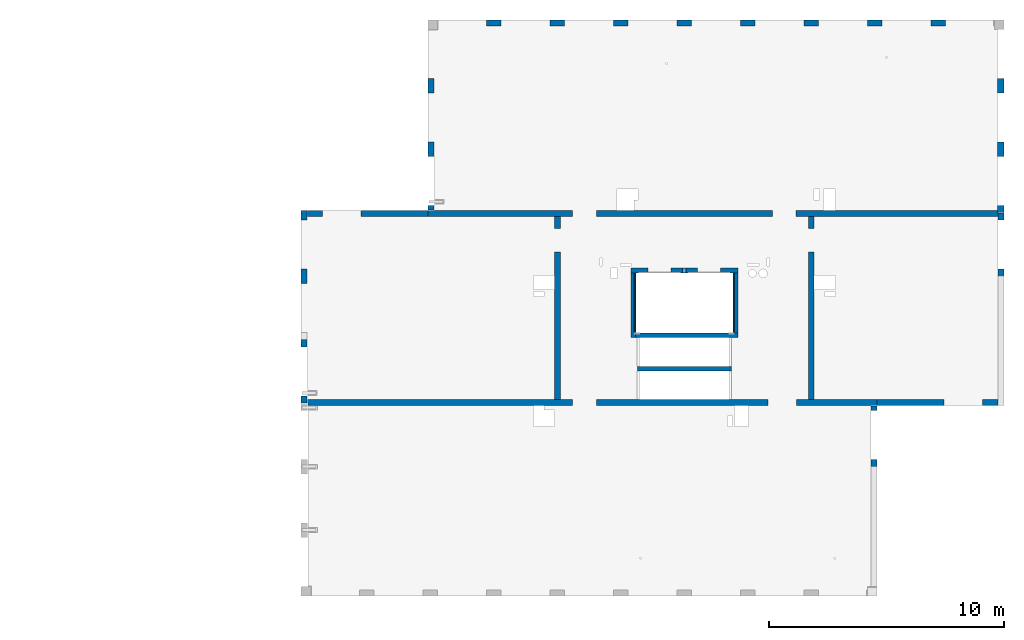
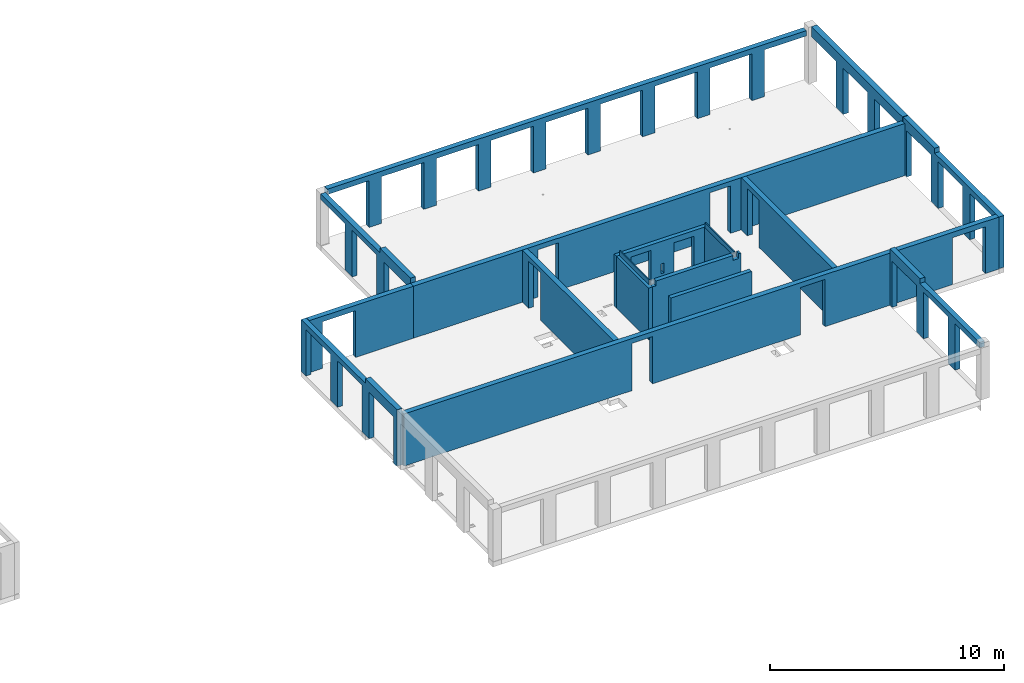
# One storey, part 4 of 8: 19 walls, 42 openings.
"""IFC2X3 building model written with IfcOpenShell, lengths in millimetres."""

from ifc_helpers import new_model, entity, si_unit, converted_unit, derived_unit, direction, frame, frame_2d, origin, place, context, subcontext, project, spatial, rectangle, extrude, material, layer, layer_set, layer_usage, type_object, element, save


model = new_model("IFC2X3")

# Units and contexts
model_context = context("Model", 3, precision=0.01, world=origin(), true_north=direction((6.12303176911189e-17, 1.0)))
body_context = subcontext(model_context, "Body", "Model", "MODEL_VIEW")
ifc_project = project(units=[si_unit("LENGTHUNIT", "METRE", prefix="MILLI"), si_unit("AREAUNIT", "SQUARE_METRE"), si_unit("VOLUMEUNIT", "CUBIC_METRE"), converted_unit("PLANEANGLEUNIT", "DEGREE", entity("IfcRatioMeasure", 0.0174532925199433), si_unit("PLANEANGLEUNIT", "RADIAN"), dimensions=[0, 0, 0, 0, 0, 0, 0]), si_unit("MASSUNIT", "GRAM", prefix="KILO"), derived_unit("MASSDENSITYUNIT", [(si_unit("MASSUNIT", "GRAM", prefix="KILO"), 1), (si_unit("LENGTHUNIT", "METRE"), -3)]), si_unit("TIMEUNIT", "SECOND"), si_unit("FREQUENCYUNIT", "HERTZ"), si_unit("THERMODYNAMICTEMPERATUREUNIT", "DEGREE_CELSIUS"), derived_unit("THERMALTRANSMITTANCEUNIT", [(si_unit("MASSUNIT", "GRAM", prefix="KILO"), 1), (si_unit("THERMODYNAMICTEMPERATUREUNIT", "KELVIN"), -1), (si_unit("TIMEUNIT", "SECOND"), -3)]), derived_unit("VOLUMETRICFLOWRATEUNIT", [(si_unit("LENGTHUNIT", "METRE"), 3), (si_unit("TIMEUNIT", "SECOND"), -1)]), si_unit("ELECTRICCURRENTUNIT", "AMPERE"), si_unit("ELECTRICVOLTAGEUNIT", "VOLT"), si_unit("POWERUNIT", "WATT"), si_unit("FORCEUNIT", "NEWTON", prefix="KILO"), si_unit("ILLUMINANCEUNIT", "LUX"), si_unit("LUMINOUSFLUXUNIT", "LUMEN"), si_unit("LUMINOUSINTENSITYUNIT", "CANDELA"), derived_unit("USERDEFINED", [(si_unit("MASSUNIT", "GRAM", prefix="KILO"), -1), (si_unit("LENGTHUNIT", "METRE"), -2), (si_unit("TIMEUNIT", "SECOND"), 3), (si_unit("LUMINOUSFLUXUNIT", "LUMEN"), 1)]), derived_unit("LINEARVELOCITYUNIT", [(si_unit("LENGTHUNIT", "METRE"), 1), (si_unit("TIMEUNIT", "SECOND"), -1)]), si_unit("PRESSUREUNIT", "PASCAL"), derived_unit("USERDEFINED", [(si_unit("LENGTHUNIT", "METRE"), -2), (si_unit("MASSUNIT", "GRAM", prefix="KILO"), 1), (si_unit("TIMEUNIT", "SECOND"), -2)])], contexts=[model_context])

# Site, building, storey
site_placement = place(None, origin())
site = spatial("IfcSite", under=ifc_project, at=site_placement, Name="Default", CompositionType="ELEMENT")
building_placement = place(site_placement, origin())
building = spatial("IfcBuilding", under=site, at=building_placement, Name="niet gebruiken", CompositionType="ELEMENT")
storey_placement = place(building_placement, frame((0.0, 0.0, 45270.0)))
storey = spatial("IfcBuildingStorey", under=building, at=storey_placement, Name="15 vijftiende verdieping", CompositionType="ELEMENT", Elevation=45270.0)

# Wall, openings
ifc_material_1 = material(Name="NLRS_f2_beton ihwg")
ifc_layer_1 = layer(ifc_material_1, 250.0)
ifc_layer_set_1 = layer_set([ifc_layer_1], Name="Basic Wall:NLRS_22.21_WA_beton ihwg d=250_gen")
ifc_layer_usage_1 = layer_usage(ifc_layer_set_1, "AXIS2", "NEGATIVE", 125.0)
wall_type_1 = type_object("IfcWallType", Name="Basic Wall:NLRS_22.21_WA_beton ihwg d=250_gen", PredefinedType="STANDARD", material=ifc_layer_set_1)
wall_1_placement = place(storey_placement, frame((75770.0, 36981.0, -90.0)))
wall_1 = element("IfcWallStandardCase", 1, at=wall_1_placement, inside=storey, type_object=wall_type_1, material=ifc_layer_usage_1, Name="Basic Wall:NLRS_22.21_WA_beton ihwg d=250_gen", ObjectType="Basic Wall:NLRS_22.21_WA_beton ihwg d=250_gen", context=body_context, shape_type="SweptSolid", body=[
    extrude(rectangle(XDim=24230.0000000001, YDim=250.000000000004, at=frame_2d((12115.0, 0.0), x_axis=(-1.0, 0.0))), origin(), (0.0, 0.0, 1.0), 2719.99999999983),
])
opening_1_placement = place(wall_1_placement, origin())
element("IfcOpeningElement", 2, at=opening_1_placement, cuts=wall_1, Name="Basic Wall:NLRS_22.21_WA_beton ihwg d=250_gen", ObjectType="Opening", context=body_context, shape_type="SweptSolid", body=[
    extrude(rectangle(XDim=2470.0, YDim=1225.0, at=frame_2d((-8.69704308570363e-12, 4.43378667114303e-12), x_axis=(0.0, 1.0))), frame((20192.5000000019, -1399.0, 1235.0), z_axis=(0.0, 1.0, 0.0), x_axis=(-1.0, 0.0, 0.0)), (0.0, 0.0, 1.0), 3048.0),
])
opening_2_placement = place(wall_1_placement, origin())
element("IfcOpeningElement", 3, at=opening_2_placement, cuts=wall_1, Name="Basic Wall:NLRS_22.21_WA_beton ihwg d=250_gen", ObjectType="Opening", context=body_context, shape_type="SweptSolid", body=[
    extrude(rectangle(XDim=2470.0, YDim=1006.0, at=frame_2d((8.66862137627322e-12, -4.43378667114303e-12), x_axis=(0.0, 1.0))), frame((11782.0, -1399.0, 1235.0), z_axis=(0.0, 1.0, 0.0), x_axis=(-1.0, 0.0, 0.0)), (0.0, 0.0, 1.0), 3048.0),
])
opening_3_placement = place(wall_1_placement, origin())
element("IfcOpeningElement", 4, at=opening_3_placement, cuts=wall_1, Name="Basic Wall:NLRS_22.21_WA_beton ihwg d=250_gen", ObjectType="Recess", context=body_context, shape_type="SweptSolid", body=[
    extrude(rectangle(XDim=55000.0, YDim=19.9999999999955, at=frame_2d((0.0, 4.33164615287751e-12), x_axis=(1.0, 0.0))), frame((10.0, -140.0, -5170.0), z_axis=(0.0, 1.0, 0.0), x_axis=(0.0, 0.0, -1.0)), (0.0, 0.0, 1.0), 124.999999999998),
])

# Wall, opening
ifc_layer_usage_2 = layer_usage(ifc_layer_set_1, "AXIS2", "NEGATIVE", 125.0)
wall_2_placement = place(storey_placement, frame((75770.0, 45031.0, -90.0)))
wall_2 = element("IfcWallStandardCase", 5, at=wall_2_placement, inside=storey, type_object=wall_type_1, material=ifc_layer_usage_2, Name="Basic Wall:NLRS_22.21_WA_beton ihwg d=250_gen", ObjectType="Basic Wall:NLRS_22.21_WA_beton ihwg d=250_gen", context=body_context, shape_type="SweptSolid", body=[
    extrude(rectangle(XDim=5130.0, YDim=249.999999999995, at=frame_2d((2565.0, 0.0), x_axis=(-1.0, 0.0))), origin(), (0.0, 0.0, 1.0), 2719.99999999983),
])
opening_4_placement = place(wall_2_placement, origin())
element("IfcOpeningElement", 6, at=opening_4_placement, cuts=wall_2, Name="Basic Wall:NLRS_22.21_WA_beton ihwg d=250_gen", ObjectType="Opening", context=body_context, shape_type="SweptSolid", body=[
    extrude(rectangle(XDim=2440.0, YDim=1640.0, at=frame_2d((0.0, 4.37694325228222e-12), x_axis=(1.0, 0.0))), frame((1460.0, -1649.0, 1220.0), z_axis=(0.0, 1.0, 0.0), x_axis=(0.0, 0.0, 1.0)), (0.0, 0.0, 1.0), 3048.0),
])

ifc_layer_usage_3 = layer_usage(ifc_layer_set_1, "AXIS2", "NEGATIVE", 125.0)
wall_3_placement = place(storey_placement, frame((86400.0, 44906.0, -90.0), z_axis=(0.0, 0.0, 1.0), x_axis=(0.0, -1.0, 0.0)))
wall_3 = element("IfcWallStandardCase", 7, at=wall_3_placement, inside=storey, type_object=wall_type_1, material=ifc_layer_usage_3, Name="Basic Wall:NLRS_22.21_WA_beton ihwg d=250_gen", ObjectType="Basic Wall:NLRS_22.21_WA_beton ihwg d=250_gen", context=body_context, shape_type="SweptSolid", body=[
    extrude(rectangle(XDim=7799.99999999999, YDim=250.000000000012, at=frame_2d((3900.0, 0.0), x_axis=(-1.0, 0.0))), origin(), (0.0, 0.0, 1.0), 2719.99999999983),
])
opening_5_placement = place(wall_3_placement, origin())
element("IfcOpeningElement", 8, at=opening_5_placement, cuts=wall_3, Name="Basic Wall:NLRS_22.21_WA_beton ihwg d=250_gen", ObjectType="Opening", context=body_context, shape_type="SweptSolid", body=[
    extrude(rectangle(XDim=2470.0, YDim=1006.0, at=frame_2d((-4.43378667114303e-12, 0.0), x_axis=(1.0, 0.0))), frame((1027.0, -1649.0, 1235.0), z_axis=(0.0, 1.0, 0.0), x_axis=(0.0, 0.0, 1.0)), (0.0, 0.0, 1.0), 3048.0),
])

ifc_layer_usage_4 = layer_usage(ifc_layer_set_1, "AXIS2", "NEGATIVE", 125.0)
wall_4_placement = place(storey_placement, frame((97200.0, 44906.0, -90.0), z_axis=(0.0, 0.0, 1.0), x_axis=(0.0, -1.0, 0.0)))
wall_4 = element("IfcWallStandardCase", 9, at=wall_4_placement, inside=storey, type_object=wall_type_1, material=ifc_layer_usage_4, Name="Basic Wall:NLRS_22.21_WA_beton ihwg d=250_gen", ObjectType="Basic Wall:NLRS_22.21_WA_beton ihwg d=250_gen", context=body_context, shape_type="SweptSolid", body=[
    extrude(rectangle(XDim=7799.99999999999, YDim=250.000000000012, at=frame_2d((3900.0, 0.0), x_axis=(-1.0, 0.0))), origin(), (0.0, 0.0, 1.0), 2719.99999999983),
])
opening_6_placement = place(wall_4_placement, origin())
element("IfcOpeningElement", 10, at=opening_6_placement, cuts=wall_4, Name="Basic Wall:NLRS_22.21_WA_beton ihwg d=250_gen", ObjectType="Opening", context=body_context, shape_type="SweptSolid", body=[
    extrude(rectangle(XDim=2470.0, YDim=1006.0, at=frame_2d((-4.43378667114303e-12, 0.0), x_axis=(1.0, 0.0))), frame((1027.0, -1649.0, 1235.0), z_axis=(0.0, 1.0, 0.0), x_axis=(0.0, 0.0, 1.0)), (0.0, 0.0, 1.0), 3048.0),
])

# Wall, openings
ifc_layer_usage_5 = layer_usage(ifc_layer_set_1, "AXIS2", "NEGATIVE", 125.0)
wall_5_placement = place(storey_placement, frame((80900.0, 45031.0, -90.0)))
wall_5 = element("IfcWallStandardCase", 11, at=wall_5_placement, inside=storey, type_object=wall_type_1, material=ifc_layer_usage_5, Name="Basic Wall:NLRS_22.21_WA_beton ihwg d=250_gen", ObjectType="Basic Wall:NLRS_22.21_WA_beton ihwg d=250_gen", context=body_context, shape_type="SweptSolid", body=[
    extrude(rectangle(XDim=24250.0, YDim=249.999999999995, at=frame_2d((12125.0, 0.0), x_axis=(-1.0, 0.0))), origin(), (0.0, 0.0, 1.0), 2719.99999999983),
])
opening_7_placement = place(wall_5_placement, origin())
element("IfcOpeningElement", 12, at=opening_7_placement, cuts=wall_5, Name="Basic Wall:NLRS_22.21_WA_beton ihwg d=250_gen", ObjectType="Opening", context=body_context, shape_type="SweptSolid", body=[
    extrude(rectangle(XDim=2470.0, YDim=1006.0, at=frame_2d((-4.43378667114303e-12, 8.66862137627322e-12), x_axis=(1.0, 0.0))), frame((15148.0, -1649.0, 1235.0), z_axis=(0.0, 1.0, 0.0), x_axis=(0.0, 0.0, 1.0)), (0.0, 0.0, 1.0), 3048.0),
])
opening_8_placement = place(wall_5_placement, origin())
element("IfcOpeningElement", 13, at=opening_8_placement, cuts=wall_5, Name="Basic Wall:NLRS_22.21_WA_beton ihwg d=250_gen", ObjectType="Opening", context=body_context, shape_type="SweptSolid", body=[
    extrude(rectangle(XDim=2470.0, YDim=1006.0, at=frame_2d((4.43378667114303e-12, 8.66862137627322e-12), x_axis=(1.0, 0.0))), frame((6652.0, -1649.0, 1235.0), z_axis=(0.0, 1.0, 0.0), x_axis=(0.0, 0.0, 1.0)), (0.0, 0.0, 1.0), 3048.0),
])

# Wall, opening
ifc_layer_usage_6 = layer_usage(ifc_layer_set_1, "AXIS2", "NEGATIVE", 125.0)
wall_6_placement = place(storey_placement, frame((100000.0, 36981.0, -90.0)))
wall_6 = element("IfcWallStandardCase", 14, at=wall_6_placement, inside=storey, type_object=wall_type_1, material=ifc_layer_usage_6, Name="Basic Wall:NLRS_22.21_WA_beton ihwg d=250_gen", ObjectType="Basic Wall:NLRS_22.21_WA_beton ihwg d=250_gen", context=body_context, shape_type="SweptSolid", body=[
    extrude(rectangle(XDim=5149.99999999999, YDim=250.000000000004, at=frame_2d((2575.0, 0.0), x_axis=(-1.0, 0.0))), origin(), (0.0, 0.0, 1.0), 2719.99999999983),
])
opening_9_placement = place(wall_6_placement, origin())
element("IfcOpeningElement", 15, at=opening_9_placement, cuts=wall_6, Name="Basic Wall:NLRS_22.21_WA_beton ihwg d=250_gen", ObjectType="Opening", context=body_context, shape_type="SweptSolid", body=[
    extrude(rectangle(XDim=2440.0, YDim=1639.99999999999, at=frame_2d((-8.69704308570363e-12, 0.0), x_axis=(0.0, 1.0))), frame((3670.0, -1399.0, 1220.0), z_axis=(0.0, 1.0, 0.0), x_axis=(-1.0, 0.0, 0.0)), (0.0, 0.0, 1.0), 3048.0),
])

# Wall, openings
ifc_material_2 = material(Name="NLRS_f2_beton prefab")
ifc_layer_2 = layer(ifc_material_2, 250.0)
ifc_layer_set_2 = layer_set([ifc_layer_2], Name="Basic Wall:NLRS_21.21_WA_beton prefab d=250_gen")
ifc_layer_usage_7 = layer_usage(ifc_layer_set_2, "AXIS2", "NEGATIVE", 125.0)
wall_type_2 = type_object("IfcWallType", Name="Basic Wall:NLRS_21.21_WA_beton prefab d=250_gen", PredefinedType="STANDARD", material=ifc_layer_set_2)
wall_7_placement = place(storey_placement, frame((75625.0, 45156.0, -70.0), z_axis=(0.0, 0.0, 1.0), x_axis=(0.0, -1.0, 0.0)))
wall_7 = element("IfcWallStandardCase", 16, at=wall_7_placement, inside=storey, type_object=wall_type_2, material=ifc_layer_usage_7, Name="Basic Wall:NLRS_21.21_WA_beton prefab d=250_gen", ObjectType="Basic Wall:NLRS_21.21_WA_beton prefab d=250_gen", context=body_context, shape_type="SweptSolid", body=[
    extrude(rectangle(XDim=8189.99999999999, YDim=249.999999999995, at=frame_2d((4095.0, 0.0), x_axis=(-1.0, 0.0))), origin(), (0.0, 0.0, 1.0), 2949.99999999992),
])
opening_10_placement = place(wall_7_placement, origin())
element("IfcOpeningElement", 17, at=opening_10_placement, cuts=wall_7, Name="Basic Wall:NLRS_21.21_WA_beton prefab d=250_gen", ObjectType="Opening", context=body_context, shape_type="SweptSolid", body=[
    extrude(rectangle(XDim=2420.0, YDim=2080.0, at=frame_2d((0.0, 0.0), x_axis=(0.0, 1.0))), frame((1450.0, -1399.0, 1210.0), z_axis=(0.0, 1.0, 0.0), x_axis=(-1.0, 0.0, 0.0)), (0.0, 0.0, 1.0), 3048.0),
])
opening_11_placement = place(wall_7_placement, origin())
element("IfcOpeningElement", 18, at=opening_11_placement, cuts=wall_7, Name="Basic Wall:NLRS_21.21_WA_beton prefab d=250_gen", ObjectType="Opening", context=body_context, shape_type="SweptSolid", body=[
    extrude(rectangle(XDim=2420.0, YDim=2080.0, at=frame_2d((0.0, 0.0), x_axis=(0.0, 1.0))), frame((4150.0, -1399.0, 1210.0), z_axis=(0.0, 1.0, 0.0), x_axis=(-1.0, 0.0, 0.0)), (0.0, 0.0, 1.0), 3048.0),
])
opening_12_placement = place(wall_7_placement, origin())
element("IfcOpeningElement", 19, at=opening_12_placement, cuts=wall_7, Name="Basic Wall:NLRS_21.21_WA_beton prefab d=250_gen", ObjectType="Opening", context=body_context, shape_type="SweptSolid", body=[
    extrude(rectangle(XDim=2420.0, YDim=2080.0, at=frame_2d((0.0, 0.0), x_axis=(0.0, 1.0))), frame((6850.0, -1399.0, 1210.0), z_axis=(0.0, 1.0, 0.0), x_axis=(-1.0, 0.0, 0.0)), (0.0, 0.0, 1.0), 3048.0),
])
opening_13_placement = place(wall_7_placement, origin())
element("IfcOpeningElement", 20, at=opening_13_placement, cuts=wall_7, Name="Basic Wall:NLRS_21.21_WA_beton prefab d=250_gen", ObjectType="Opening", context=body_context, shape_type="SweptSolid", body=[
    extrude(rectangle(XDim=250.000000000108, YDim=5499.99999999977, at=frame_2d((0.0, 4.32720526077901e-12), x_axis=(0.0, 1.0))), frame((2750.0, 125.0, 2825.0), z_axis=(0.0, -1.0, 0.0), x_axis=(-1.0, 0.0, 0.0)), (0.0, 0.0, 1.0), 250.0),
])

ifc_layer_usage_8 = layer_usage(ifc_layer_set_2, "AXIS2", "NEGATIVE", 125.0)
wall_8_placement = place(storey_placement, frame((81025.0, 52846.0, -70.0), z_axis=(0.0, 0.0, 1.0), x_axis=(0.0, -1.0, 0.0)))
wall_8 = element("IfcWallStandardCase", 21, at=wall_8_placement, inside=storey, type_object=wall_type_2, material=ifc_layer_usage_8, Name="Basic Wall:NLRS_21.21_WA_beton prefab d=250_gen", ObjectType="Basic Wall:NLRS_21.21_WA_beton prefab d=250_gen", context=body_context, shape_type="SweptSolid", body=[
    extrude(rectangle(XDim=7670.00000000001, YDim=250.000000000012, at=frame_2d((3835.0, 0.0), x_axis=(-1.0, 0.0))), origin(), (0.0, 0.0, 1.0), 2949.99999999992),
])
opening_14_placement = place(wall_8_placement, origin())
element("IfcOpeningElement", 22, at=opening_14_placement, cuts=wall_8, Name="Basic Wall:NLRS_21.21_WA_beton prefab d=250_gen", ObjectType="Opening", context=body_context, shape_type="SweptSolid", body=[
    extrude(rectangle(XDim=2420.0, YDim=2080.0, at=frame_2d((0.0, 0.0), x_axis=(0.0, 1.0))), frame((1040.0, -1399.0, 1210.0), z_axis=(0.0, 1.0, 0.0), x_axis=(-1.0, 0.0, 0.0)), (0.0, 0.0, 1.0), 3048.0),
])
opening_15_placement = place(wall_8_placement, origin())
element("IfcOpeningElement", 23, at=opening_15_placement, cuts=wall_8, Name="Basic Wall:NLRS_21.21_WA_beton prefab d=250_gen", ObjectType="Opening", context=body_context, shape_type="SweptSolid", body=[
    extrude(rectangle(XDim=2420.0, YDim=2080.0, at=frame_2d((0.0, 0.0), x_axis=(0.0, 1.0))), frame((3740.0, -1399.0, 1210.0), z_axis=(0.0, 1.0, 0.0), x_axis=(-1.0, 0.0, 0.0)), (0.0, 0.0, 1.0), 3048.0),
])
opening_16_placement = place(wall_8_placement, origin())
element("IfcOpeningElement", 24, at=opening_16_placement, cuts=wall_8, Name="Basic Wall:NLRS_21.21_WA_beton prefab d=250_gen", ObjectType="Opening", context=body_context, shape_type="SweptSolid", body=[
    extrude(rectangle(XDim=2420.0, YDim=2080.0, at=frame_2d((0.0, 0.0), x_axis=(0.0, 1.0))), frame((6440.0, -1399.0, 1210.0), z_axis=(0.0, 1.0, 0.0), x_axis=(-1.0, 0.0, 0.0)), (0.0, 0.0, 1.0), 3048.0),
])
opening_17_placement = place(wall_8_placement, origin())
element("IfcOpeningElement", 25, at=opening_17_placement, cuts=wall_8, Name="Basic Wall:NLRS_21.21_WA_beton prefab d=250_gen", ObjectType="Opening", context=body_context, shape_type="SweptSolid", body=[
    extrude(rectangle(XDim=250.000000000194, YDim=5089.99999999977, at=frame_2d((4.32009983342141e-12, -4.32720526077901e-12), x_axis=(0.0, 1.0))), frame((2545.0, 125.0, 2825.0), z_axis=(0.0, -1.0, 0.0), x_axis=(-1.0, 0.0, 0.0)), (0.0, 0.0, 1.0), 250.0),
])

ifc_layer_usage_9 = layer_usage(ifc_layer_set_2, "AXIS2", "NEGATIVE", 125.0)
wall_9_placement = place(storey_placement, frame((105275.0, 45046.0, -70.0), z_axis=(0.0, 0.0, 1.0), x_axis=(0.0, -1.0, 0.0)))
wall_9 = element("IfcWallStandardCase", 26, at=wall_9_placement, inside=storey, type_object=wall_type_2, material=ifc_layer_usage_9, Name="Basic Wall:NLRS_21.21_WA_beton prefab d=250_gen", ObjectType="Basic Wall:NLRS_21.21_WA_beton prefab d=250_gen", context=body_context, shape_type="SweptSolid", body=[
    extrude(rectangle(XDim=8189.99999999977, YDim=250.000000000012, at=frame_2d((4094.99999999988, 0.0), x_axis=(-1.0, 0.0))), origin(), (0.0, 0.0, 1.0), 2949.99999999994),
])
opening_18_placement = place(wall_9_placement, origin())
element("IfcOpeningElement", 27, at=opening_18_placement, cuts=wall_9, Name="Basic Wall:NLRS_21.21_WA_beton prefab d=250_gen", ObjectType="Opening", context=body_context, shape_type="SweptSolid", body=[
    extrude(rectangle(XDim=2420.0, YDim=2080.0, at=frame_2d((0.0, 0.0), x_axis=(0.0, 1.0))), frame((1340.0, -1399.0, 1210.0), z_axis=(0.0, 1.0, 0.0), x_axis=(-1.0, 0.0, 0.0)), (0.0, 0.0, 1.0), 3048.0),
])
opening_19_placement = place(wall_9_placement, origin())
element("IfcOpeningElement", 28, at=opening_19_placement, cuts=wall_9, Name="Basic Wall:NLRS_21.21_WA_beton prefab d=250_gen", ObjectType="Opening", context=body_context, shape_type="SweptSolid", body=[
    extrude(rectangle(XDim=2420.0, YDim=2080.0, at=frame_2d((0.0, 0.0), x_axis=(0.0, 1.0))), frame((4040.0, -1399.0, 1210.0), z_axis=(0.0, 1.0, 0.0), x_axis=(-1.0, 0.0, 0.0)), (0.0, 0.0, 1.0), 3048.0),
])
opening_20_placement = place(wall_9_placement, origin())
element("IfcOpeningElement", 29, at=opening_20_placement, cuts=wall_9, Name="Basic Wall:NLRS_21.21_WA_beton prefab d=250_gen", ObjectType="Opening", context=body_context, shape_type="SweptSolid", body=[
    extrude(rectangle(XDim=2420.0, YDim=2080.0, at=frame_2d((0.0, 0.0), x_axis=(0.0, 1.0))), frame((6740.0, -1399.0, 1210.0), z_axis=(0.0, 1.0, 0.0), x_axis=(-1.0, 0.0, 0.0)), (0.0, 0.0, 1.0), 3048.0),
])
opening_21_placement = place(wall_9_placement, origin())
element("IfcOpeningElement", 30, at=opening_21_placement, cuts=wall_9, Name="Basic Wall:NLRS_21.21_WA_beton prefab d=250_gen", ObjectType="Opening", context=body_context, shape_type="SweptSolid", body=[
    extrude(rectangle(XDim=249.999999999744, YDim=5500.0000000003, at=frame_2d((-4.33431068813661e-12, 4.32009983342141e-12), x_axis=(1.0, 0.0))), frame((5440.0, 125.0, 2825.0), z_axis=(0.0, -1.0, 0.0), x_axis=(0.0, 0.0, 1.0)), (0.0, 0.0, 1.0), 250.0),
])

ifc_layer_usage_10 = layer_usage(ifc_layer_set_2, "AXIS2", "NEGATIVE", 125.0)
wall_10_placement = place(storey_placement, frame((99875.0, 29166.0, -70.0), z_axis=(0.0, 0.0, 1.0), x_axis=(0.0, 1.0, 0.0)))
wall_10 = element("IfcWallStandardCase", 31, at=wall_10_placement, inside=storey, type_object=wall_type_2, material=ifc_layer_usage_10, Name="Basic Wall:NLRS_21.21_WA_beton prefab d=250_gen", ObjectType="Basic Wall:NLRS_21.21_WA_beton prefab d=250_gen", context=body_context, shape_type="SweptSolid", body=[
    extrude(rectangle(XDim=7669.99999999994, YDim=250.000000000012, at=frame_2d((3834.99999999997, 0.0), x_axis=(-1.0, 0.0))), origin(), (0.0, 0.0, 1.0), 2949.99999999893),
])
opening_22_placement = place(wall_10_placement, origin())
element("IfcOpeningElement", 32, at=opening_22_placement, cuts=wall_10, Name="Basic Wall:NLRS_21.21_WA_beton prefab d=250_gen", ObjectType="Opening", context=body_context, shape_type="SweptSolid", body=[
    extrude(rectangle(XDim=2420.0, YDim=2080.0, at=frame_2d((-2.1600499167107e-12, 0.0), x_axis=(0.0, 1.0))), frame((1040.0, -1399.0, 1210.0), z_axis=(0.0, 1.0, 0.0), x_axis=(-1.0, 0.0, 0.0)), (0.0, 0.0, 1.0), 3048.0),
])
opening_23_placement = place(wall_10_placement, origin())
element("IfcOpeningElement", 33, at=opening_23_placement, cuts=wall_10, Name="Basic Wall:NLRS_21.21_WA_beton prefab d=250_gen", ObjectType="Opening", context=body_context, shape_type="SweptSolid", body=[
    extrude(rectangle(XDim=2420.0, YDim=2080.0, at=frame_2d((2.1600499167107e-12, 0.0), x_axis=(0.0, 1.0))), frame((6440.0, -1399.0, 1210.0), z_axis=(0.0, 1.0, 0.0), x_axis=(-1.0, 0.0, 0.0)), (0.0, 0.0, 1.0), 3048.0),
])
opening_24_placement = place(wall_10_placement, origin())
element("IfcOpeningElement", 34, at=opening_24_placement, cuts=wall_10, Name="Basic Wall:NLRS_21.21_WA_beton prefab d=250_gen", ObjectType="Opening", context=body_context, shape_type="SweptSolid", body=[
    extrude(rectangle(XDim=2420.0, YDim=2080.0, at=frame_2d((2.1600499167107e-12, 0.0), x_axis=(0.0, 1.0))), frame((3740.0, -1399.0, 1210.0), z_axis=(0.0, 1.0, 0.0), x_axis=(-1.0, 0.0, 0.0)), (0.0, 0.0, 1.0), 3048.0),
])
opening_25_placement = place(wall_10_placement, origin())
element("IfcOpeningElement", 35, at=opening_25_placement, cuts=wall_10, Name="Basic Wall:NLRS_21.21_WA_beton prefab d=250_gen", ObjectType="Opening", context=body_context, shape_type="SweptSolid", body=[
    extrude(rectangle(XDim=249.999999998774, YDim=5090.00000000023, at=frame_2d((0.0, 4.32720526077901e-12), x_axis=(0.0, 1.0))), frame((2545.0, 125.0, 2825.0), z_axis=(0.0, -1.0, 0.0), x_axis=(-1.0, 0.0, 0.0)), (0.0, 0.0, 1.0), 250.0),
])

# Wall
ifc_layer_3 = layer(ifc_material_2, 200.0)
ifc_layer_set_3 = layer_set([ifc_layer_3], Name="Basic Wall:NLRS_21.21_WA_beton prefab d=200_gen")
ifc_layer_usage_11 = layer_usage(ifc_layer_set_3, "AXIS2", "NEGATIVE", 100.0)
wall_type_3 = type_object("IfcWallType", Name="Basic Wall:NLRS_21.21_WA_beton prefab d=200_gen", PredefinedType="STANDARD", material=ifc_layer_set_3)
wall_11_placement = place(storey_placement, frame((89800.0, 38426.0, -70.0)))
element("IfcWallStandardCase", 36, at=wall_11_placement, inside=storey, type_object=wall_type_3, material=ifc_layer_usage_11, Name="Basic Wall:NLRS_21.21_WA_beton prefab d=200_gen", ObjectType="Basic Wall:NLRS_21.21_WA_beton prefab d=200_gen", context=body_context, shape_type="SweptSolid", body=[
    extrude(rectangle(XDim=3999.99999999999, YDim=199.999999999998, at=frame_2d((2000.0, 0.0), x_axis=(-1.0, 0.0))), origin(), (0.0, 0.0, 1.0), 2950.00000000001),
])

# Wall, openings
ifc_layer_4 = layer(ifc_material_2, 200.0)
ifc_layer_set_4 = layer_set([ifc_layer_4], Name="Basic Wall:NLRS_22.21_WA_beton prefab d=200_gen")
ifc_layer_usage_12 = layer_usage(ifc_layer_set_4, "AXIS2", "NEGATIVE", 100.0)
wall_type_4 = type_object("IfcWallType", Name="Basic Wall:NLRS_22.21_WA_beton prefab d=200_gen", PredefinedType="STANDARD", material=ifc_layer_set_4)
wall_12_placement = place(storey_placement, frame((89525.0, 42596.0, -70.0)))
wall_12 = element("IfcWallStandardCase", 37, at=wall_12_placement, inside=storey, type_object=wall_type_4, material=ifc_layer_usage_12, Name="Basic Wall:NLRS_22.21_WA_beton prefab d=200_gen", ObjectType="Basic Wall:NLRS_22.21_WA_beton prefab d=200_gen", context=body_context, shape_type="SweptSolid", body=[
    extrude(rectangle(XDim=4550.00000000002, YDim=200.000000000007, at=frame_2d((2275.00000000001, 7.8159700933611e-13), x_axis=(-1.0, 0.0))), origin(), (0.0, 0.0, 1.0), 2700.00000000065),
])
opening_26_placement = place(wall_12_placement, origin())
element("IfcOpeningElement", 38, at=opening_26_placement, cuts=wall_12, Name="Basic Wall:NLRS_22.21_WA_beton prefab d=200_gen", ObjectType="Opening", context=body_context, shape_type="SweptSolid", body=[
    extrude(rectangle(XDim=2430.0, YDim=980.000000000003, at=frame_2d((0.0, -8.66862137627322e-12), x_axis=(1.0, 0.0))), frame((1219.99984910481, -1624.0, 1195.0), z_axis=(0.0, 1.0, 0.0), x_axis=(0.0, 0.0, 1.0)), (0.0, 0.0, 1.0), 3048.0),
])
opening_27_placement = place(wall_12_placement, origin())
element("IfcOpeningElement", 39, at=opening_27_placement, cuts=wall_12, Name="Basic Wall:NLRS_22.21_WA_beton prefab d=200_gen", ObjectType="Opening", context=body_context, shape_type="SweptSolid", body=[
    extrude(rectangle(XDim=2430.0, YDim=980.000000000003, at=frame_2d((0.0, -8.66862137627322e-12), x_axis=(1.0, 0.0))), frame((3329.99984910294, -1624.0, 1195.0), z_axis=(0.0, 1.0, 0.0), x_axis=(0.0, 0.0, 1.0)), (0.0, 0.0, 1.0), 3048.0),
])
opening_28_placement = place(wall_12_placement, origin())
element("IfcOpeningElement", 40, at=opening_28_placement, cuts=wall_12, Name="Basic Wall:NLRS_22.21_WA_beton prefab d=200_gen", ObjectType="Opening", context=body_context, shape_type="SweptSolid", body=[
    extrude(rectangle(XDim=505.000000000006, YDim=135.000000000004, at=frame_2d((-4.33431068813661e-12, -8.66151594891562e-12), x_axis=(1.0, 0.0))), frame((2275.0, -1624.0, 1272.49999999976), z_axis=(0.0, 1.0, 0.0), x_axis=(0.0, 0.0, 1.0)), (0.0, 0.0, 1.0), 3048.0),
])

# Wall
ifc_layer_usage_13 = layer_usage(ifc_layer_set_4, "AXIS2", "NEGATIVE", 100.0)
wall_13_placement = place(storey_placement, frame((89625.0, 42496.0, -70.0), z_axis=(0.0, 0.0, 1.0), x_axis=(0.0, -1.0, 0.0)))
element("IfcWallStandardCase", 41, at=wall_13_placement, inside=storey, type_object=wall_type_4, material=ifc_layer_usage_13, Name="Basic Wall:NLRS_22.21_WA_beton prefab d=200_gen", ObjectType="Basic Wall:NLRS_22.21_WA_beton prefab d=200_gen", context=body_context, shape_type="SweptSolid", body=[
    extrude(rectangle(XDim=2749.99999999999, YDim=199.999999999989, at=frame_2d((1375.0, 0.0), x_axis=(-1.0, 0.0))), origin(), (0.0, 0.0, 1.0), 2699.99999999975),
])

# Wall, openings
ifc_layer_usage_14 = layer_usage(ifc_layer_set_4, "AXIS2", "NEGATIVE", 100.0)
wall_14_placement = place(storey_placement, frame((94075.0, 39846.0, -70.0), z_axis=(0.0, 0.0, 1.0), x_axis=(-1.0, 0.0, 0.0)))
wall_14 = element("IfcWallStandardCase", 42, at=wall_14_placement, inside=storey, type_object=wall_type_4, material=ifc_layer_usage_14, Name="Basic Wall:NLRS_22.21_WA_beton prefab d=200_gen", ObjectType="Basic Wall:NLRS_22.21_WA_beton prefab d=200_gen", context=body_context, shape_type="SweptSolid", body=[
    extrude(rectangle(XDim=4350.00000000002, YDim=200.000000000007, at=frame_2d((2175.00000000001, 0.0), x_axis=(-1.0, 0.0))), origin(), (0.0, 0.0, 1.0), 2949.99999999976),
])
opening_29_placement = place(wall_14_placement, origin())
element("IfcOpeningElement", 43, at=opening_29_placement, cuts=wall_14, Name="Basic Wall:NLRS_22.21_WA_beton prefab d=200_gen", ObjectType="Opening", context=body_context, shape_type="SweptSolid", body=[
    extrude(rectangle(XDim=249.999999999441, YDim=274.999967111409, at=frame_2d((0.0, 8.65441052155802e-12), x_axis=(1.0, 0.0))), frame((4312.50001644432, 100.0, 2825.0), z_axis=(0.0, -1.0, 0.0), x_axis=(0.0, 0.0, 1.0)), (0.0, 0.0, 1.0), 200.0),
])
opening_30_placement = place(wall_14_placement, origin())
element("IfcOpeningElement", 44, at=opening_30_placement, cuts=wall_14, Name="Basic Wall:NLRS_22.21_WA_beton prefab d=200_gen", ObjectType="Opening", context=body_context, shape_type="SweptSolid", body=[
    extrude(rectangle(XDim=249.999999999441, YDim=274.999967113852, at=frame_2d((0.0, 0.0), x_axis=(0.0, 1.0))), frame((237.499983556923, 100.0, 2825.0), z_axis=(0.0, -1.0, 0.0), x_axis=(-1.0, 0.0, 0.0)), (0.0, 0.0, 1.0), 200.0),
])

# Wall
ifc_layer_usage_15 = layer_usage(ifc_layer_set_4, "AXIS2", "NEGATIVE", 100.0)
wall_15_placement = place(storey_placement, frame((93975.0, 39946.0, -70.0), z_axis=(0.0, 0.0, 1.0), x_axis=(0.0, 1.0, 0.0)))
element("IfcWallStandardCase", 45, at=wall_15_placement, inside=storey, type_object=wall_type_4, material=ifc_layer_usage_15, Name="Basic Wall:NLRS_22.21_WA_beton prefab d=200_gen", ObjectType="Basic Wall:NLRS_22.21_WA_beton prefab d=200_gen", context=body_context, shape_type="SweptSolid", body=[
    extrude(rectangle(XDim=2549.99999999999, YDim=199.999999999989, at=frame_2d((1275.0, 0.0), x_axis=(-1.0, 0.0))), origin(), (0.0, 0.0, 1.0), 2699.99999999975),
])

# Wall, openings
ifc_layer_5 = layer(ifc_material_1, 250.0)
ifc_layer_set_5 = layer_set([ifc_layer_5], Name="Basic Wall:NLRS_21.21_WA_beton ihwg d=250_gen")
ifc_layer_usage_16 = layer_usage(ifc_layer_set_5, "AXIS2", "NEGATIVE", 125.0)
wall_type_5 = type_object("IfcWallType", Name="Basic Wall:NLRS_21.21_WA_beton ihwg d=250_gen", PredefinedType="STANDARD", material=ifc_layer_set_5)
wall_16_placement = place(storey_placement, frame((104970.0, 53131.0, -90.0), z_axis=(0.0, 0.0, 1.0), x_axis=(-1.0, 0.0, 0.0)))
wall_16 = element("IfcWallStandardCase", 46, at=wall_16_placement, inside=storey, type_object=wall_type_5, material=ifc_layer_usage_16, Name="Basic Wall:NLRS_21.21_WA_beton ihwg d=250_gen", ObjectType="Basic Wall:NLRS_21.21_WA_beton ihwg d=250_gen", context=body_context, shape_type="SweptSolid", body=[
    extrude(rectangle(XDim=23640.0000000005, YDim=249.999999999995, at=frame_2d((11820.0000000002, 5.82645043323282e-13), x_axis=(-1.0, 0.0))), origin(), (0.0, 0.0, 1.0), 2720.00000000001),
])
opening_31_placement = place(wall_16_placement, origin())
element("IfcOpeningElement", 47, at=opening_31_placement, cuts=wall_16, Name="Basic Wall:NLRS_21.21_WA_beton ihwg d=250_gen", ObjectType="Opening", context=body_context, shape_type="SweptSolid", body=[
    extrude(rectangle(XDim=2440.0, YDim=2080.0, at=frame_2d((8.64019966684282e-12, 0.0), x_axis=(0.0, 1.0))), frame((22620.0, -1399.0, 1220.0), z_axis=(0.0, 1.0, 0.0), x_axis=(-1.0, 0.0, 0.0)), (0.0, 0.0, 1.0), 3048.0),
])
opening_32_placement = place(wall_16_placement, origin())
element("IfcOpeningElement", 48, at=opening_32_placement, cuts=wall_16, Name="Basic Wall:NLRS_21.21_WA_beton ihwg d=250_gen", ObjectType="Opening", context=body_context, shape_type="SweptSolid", body=[
    extrude(rectangle(XDim=2440.0, YDim=2080.0, at=frame_2d((-8.64019966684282e-12, 0.0), x_axis=(0.0, 1.0))), frame((19920.0, -1399.0, 1220.0), z_axis=(0.0, 1.0, 0.0), x_axis=(-1.0, 0.0, 0.0)), (0.0, 0.0, 1.0), 3048.0),
])
opening_33_placement = place(wall_16_placement, origin())
element("IfcOpeningElement", 49, at=opening_33_placement, cuts=wall_16, Name="Basic Wall:NLRS_21.21_WA_beton ihwg d=250_gen", ObjectType="Opening", context=body_context, shape_type="SweptSolid", body=[
    extrude(rectangle(XDim=2440.0, YDim=2080.0, at=frame_2d((-8.64019966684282e-12, 0.0), x_axis=(0.0, 1.0))), frame((17220.0, -1399.0, 1220.0), z_axis=(0.0, 1.0, 0.0), x_axis=(-1.0, 0.0, 0.0)), (0.0, 0.0, 1.0), 3048.0),
])
opening_34_placement = place(wall_16_placement, origin())
element("IfcOpeningElement", 50, at=opening_34_placement, cuts=wall_16, Name="Basic Wall:NLRS_21.21_WA_beton ihwg d=250_gen", ObjectType="Opening", context=body_context, shape_type="SweptSolid", body=[
    extrude(rectangle(XDim=2440.0, YDim=2080.0, at=frame_2d((8.64019966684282e-12, 0.0), x_axis=(0.0, 1.0))), frame((14520.0, -1399.0, 1220.0), z_axis=(0.0, 1.0, 0.0), x_axis=(-1.0, 0.0, 0.0)), (0.0, 0.0, 1.0), 3048.0),
])
opening_35_placement = place(wall_16_placement, origin())
element("IfcOpeningElement", 51, at=opening_35_placement, cuts=wall_16, Name="Basic Wall:NLRS_21.21_WA_beton ihwg d=250_gen", ObjectType="Opening", context=body_context, shape_type="SweptSolid", body=[
    extrude(rectangle(XDim=2440.0, YDim=2080.0, at=frame_2d((-8.64019966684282e-12, 0.0), x_axis=(0.0, 1.0))), frame((11820.0, -1399.0, 1220.0), z_axis=(0.0, 1.0, 0.0), x_axis=(-1.0, 0.0, 0.0)), (0.0, 0.0, 1.0), 3048.0),
])
opening_36_placement = place(wall_16_placement, origin())
element("IfcOpeningElement", 52, at=opening_36_placement, cuts=wall_16, Name="Basic Wall:NLRS_21.21_WA_beton ihwg d=250_gen", ObjectType="Opening", context=body_context, shape_type="SweptSolid", body=[
    extrude(rectangle(XDim=2440.0, YDim=2080.0, at=frame_2d((-8.64019966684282e-12, 0.0), x_axis=(0.0, 1.0))), frame((9120.0, -1399.0, 1220.0), z_axis=(0.0, 1.0, 0.0), x_axis=(-1.0, 0.0, 0.0)), (0.0, 0.0, 1.0), 3048.0),
])
opening_37_placement = place(wall_16_placement, origin())
element("IfcOpeningElement", 53, at=opening_37_placement, cuts=wall_16, Name="Basic Wall:NLRS_21.21_WA_beton ihwg d=250_gen", ObjectType="Opening", context=body_context, shape_type="SweptSolid", body=[
    extrude(rectangle(XDim=2440.0, YDim=2080.0, at=frame_2d((8.64019966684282e-12, 0.0), x_axis=(0.0, 1.0))), frame((6420.0, -1399.0, 1220.0), z_axis=(0.0, 1.0, 0.0), x_axis=(-1.0, 0.0, 0.0)), (0.0, 0.0, 1.0), 3048.0),
])
opening_38_placement = place(wall_16_placement, origin())
element("IfcOpeningElement", 54, at=opening_38_placement, cuts=wall_16, Name="Basic Wall:NLRS_21.21_WA_beton ihwg d=250_gen", ObjectType="Opening", context=body_context, shape_type="SweptSolid", body=[
    extrude(rectangle(XDim=2440.0, YDim=2080.0, at=frame_2d((8.64019966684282e-12, 0.0), x_axis=(0.0, 1.0))), frame((3720.0, -1399.0, 1220.0), z_axis=(0.0, 1.0, 0.0), x_axis=(-1.0, 0.0, 0.0)), (0.0, 0.0, 1.0), 3048.0),
])
opening_39_placement = place(wall_16_placement, origin())
element("IfcOpeningElement", 55, at=opening_39_placement, cuts=wall_16, Name="Basic Wall:NLRS_21.21_WA_beton ihwg d=250_gen", ObjectType="Opening", context=body_context, shape_type="SweptSolid", body=[
    extrude(rectangle(XDim=2440.0, YDim=2080.0, at=frame_2d((-8.64019966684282e-12, 0.0), x_axis=(0.0, 1.0))), frame((1020.0, -1399.0, 1220.0), z_axis=(0.0, 1.0, 0.0), x_axis=(-1.0, 0.0, 0.0)), (0.0, 0.0, 1.0), 3048.0),
])

ifc_layer_6 = layer(ifc_material_2, 270.0)
ifc_layer_set_6 = layer_set([ifc_layer_6], Name="Basic Wall:NLRS_21.21_WA_beton prefab d=270_gen")
ifc_layer_usage_17 = layer_usage(ifc_layer_set_6, "AXIS2", "NEGATIVE", 135.0)
wall_type_6 = type_object("IfcWallType", Name="Basic Wall:NLRS_21.21_WA_beton prefab d=270_gen", PredefinedType="STANDARD", material=ifc_layer_set_6)
wall_17_placement = place(storey_placement, frame((105265.0, 52846.0, -70.0), z_axis=(0.0, 0.0, 1.0), x_axis=(0.0, -1.0, 0.0)))
wall_17 = element("IfcWallStandardCase", 56, at=wall_17_placement, inside=storey, type_object=wall_type_6, material=ifc_layer_usage_17, Name="Basic Wall:NLRS_21.21_WA_beton prefab d=270_gen", ObjectType="Basic Wall:NLRS_21.21_WA_beton prefab d=270_gen", context=body_context, shape_type="SweptSolid", body=[
    extrude(rectangle(XDim=7780.00000000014, YDim=270.000000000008, at=frame_2d((3890.00000000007, 0.0), x_axis=(-1.0, 0.0))), origin(), (0.0, 0.0, 1.0), 2949.99999999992),
])
opening_40_placement = place(wall_17_placement, origin())
element("IfcOpeningElement", 57, at=opening_40_placement, cuts=wall_17, Name="Basic Wall:NLRS_21.21_WA_beton prefab d=270_gen", ObjectType="Opening", context=body_context, shape_type="SweptSolid", body=[
    extrude(rectangle(XDim=2420.0, YDim=2080.0, at=frame_2d((0.0, 0.0), x_axis=(0.0, 1.0))), frame((1040.0, -1389.0, 1210.0), z_axis=(0.0, 1.0, 0.0), x_axis=(-1.0, 0.0, 0.0)), (0.0, 0.0, 1.0), 3048.0),
])
opening_41_placement = place(wall_17_placement, origin())
element("IfcOpeningElement", 58, at=opening_41_placement, cuts=wall_17, Name="Basic Wall:NLRS_21.21_WA_beton prefab d=270_gen", ObjectType="Opening", context=body_context, shape_type="SweptSolid", body=[
    extrude(rectangle(XDim=2420.0, YDim=2080.0, at=frame_2d((0.0, 0.0), x_axis=(0.0, 1.0))), frame((3740.0, -1389.0, 1210.0), z_axis=(0.0, 1.0, 0.0), x_axis=(-1.0, 0.0, 0.0)), (0.0, 0.0, 1.0), 3048.0),
])
opening_42_placement = place(wall_17_placement, origin())
element("IfcOpeningElement", 59, at=opening_42_placement, cuts=wall_17, Name="Basic Wall:NLRS_21.21_WA_beton prefab d=270_gen", ObjectType="Opening", context=body_context, shape_type="SweptSolid", body=[
    extrude(rectangle(XDim=2420.0, YDim=2080.0, at=frame_2d((0.0, 0.0), x_axis=(0.0, 1.0))), frame((6440.0, -1389.0, 1210.0), z_axis=(0.0, 1.0, 0.0), x_axis=(-1.0, 0.0, 0.0)), (0.0, 0.0, 1.0), 3048.0),
])

# Walls
ifc_layer_7 = layer(ifc_material_2, 60.0)
ifc_layer_set_7 = layer_set([ifc_layer_7], Name="Basic Wall:NLRS_22.21_WA_beton prefab d=60_gen")
ifc_layer_usage_18 = layer_usage(ifc_layer_set_7, "AXIS2", "NEGATIVE", 30.0)
wall_type_7 = type_object("IfcWallType", Name="Basic Wall:NLRS_22.21_WA_beton prefab d=60_gen", PredefinedType="STANDARD", material=ifc_layer_set_7)
wall_18_placement = place(storey_placement, frame((89695.0, 42476.0, 2630.0), z_axis=(0.0, 0.0, 1.0), x_axis=(0.0, -1.0, 0.0)))
element("IfcWallStandardCase", 60, at=wall_18_placement, inside=storey, type_object=wall_type_7, material=ifc_layer_usage_18, Name="Basic Wall:NLRS_22.21_WA_beton prefab d=60_gen", ObjectType="Basic Wall:NLRS_22.21_WA_beton prefab d=60_gen", context=body_context, shape_type="SweptSolid", body=[
    extrude(rectangle(XDim=2509.99999999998, YDim=59.9999999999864, at=frame_2d((1254.99999999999, 0.0), x_axis=(-1.0, 0.0))), origin(), (0.0, 0.0, 1.0), 250.000000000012),
])
ifc_layer_usage_19 = layer_usage(ifc_layer_set_7, "AXIS2", "POSITIVE", -30.0)
wall_19_placement = place(storey_placement, frame((93905.0, 42476.0, 2630.0), z_axis=(0.0, 0.0, 1.0), x_axis=(0.0, -1.0, 0.0)))
element("IfcWallStandardCase", 61, at=wall_19_placement, inside=storey, type_object=wall_type_7, material=ifc_layer_usage_19, Name="Basic Wall:NLRS_22.21_WA_beton prefab d=60_gen", ObjectType="Basic Wall:NLRS_22.21_WA_beton prefab d=60_gen", context=body_context, shape_type="SweptSolid", body=[
    extrude(rectangle(XDim=2509.99999999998, YDim=59.9999999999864, at=frame_2d((1254.99999999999, 0.0), x_axis=(-1.0, 0.0))), origin(), (0.0, 0.0, 1.0), 250.000000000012),
])

save(model, "model.ifc")
